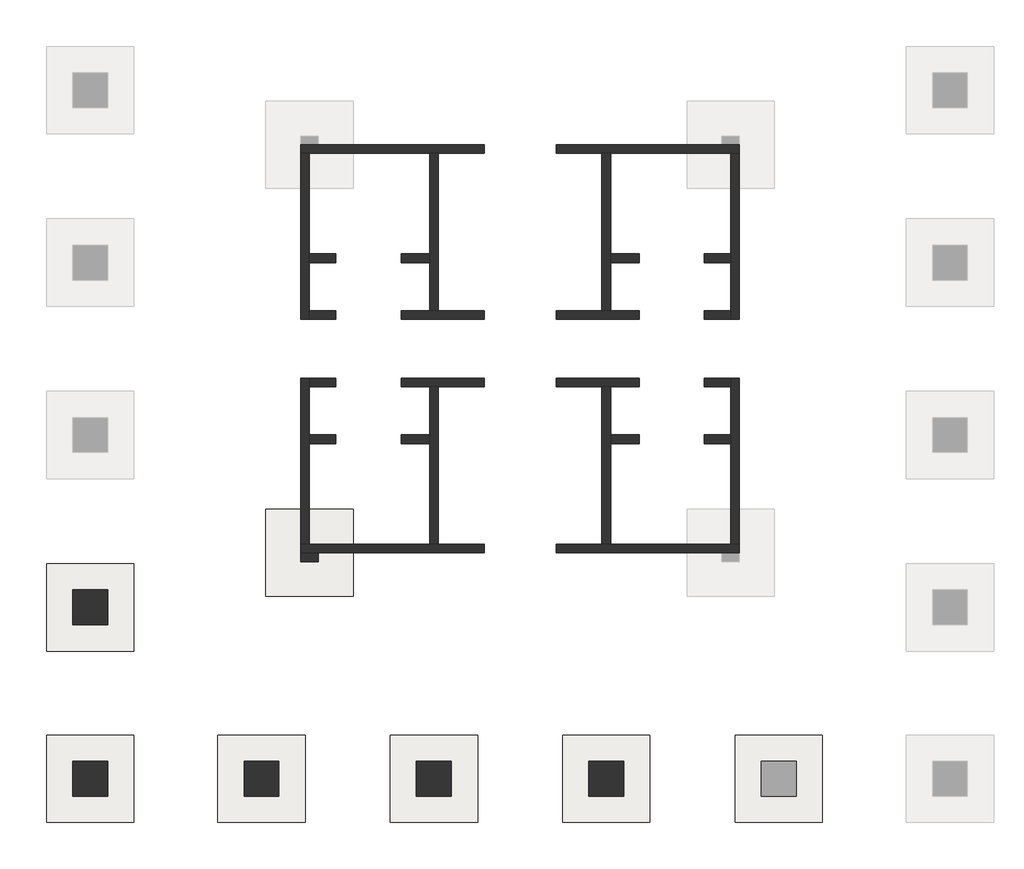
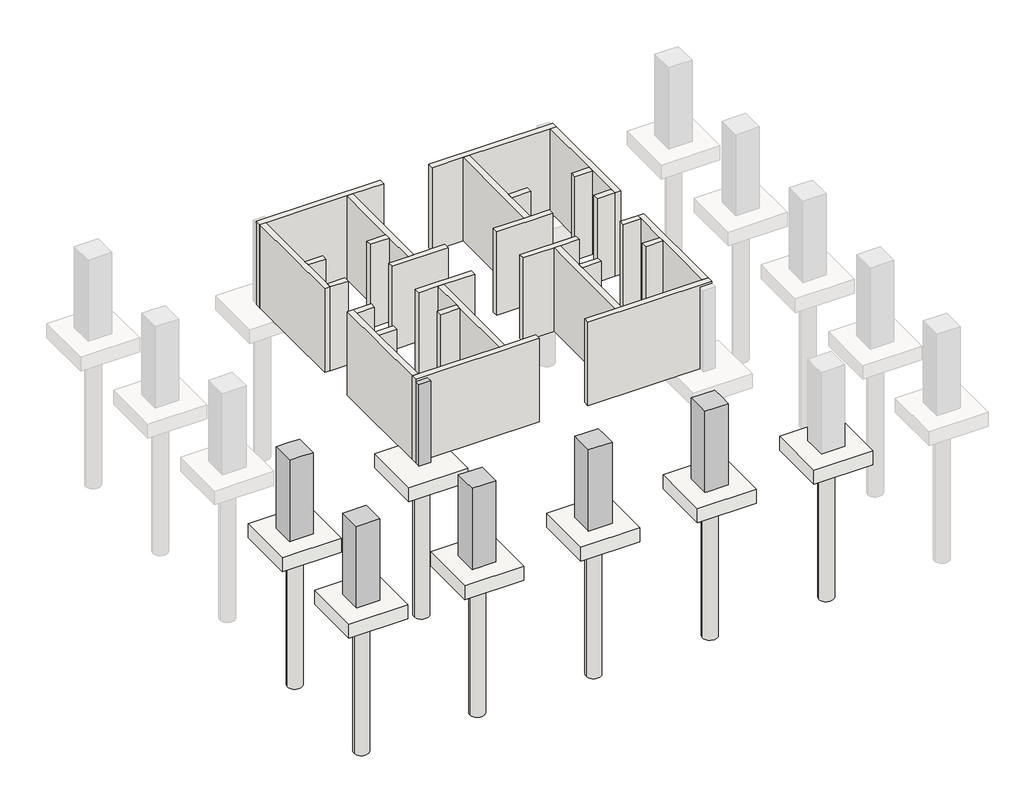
# One storey, part 1 of 2: 28 walls, 14 slabs, 6 columns.
"""IFC4 building model written with IfcOpenShell, lengths in millimetres."""

from ifc_helpers import new_model, si_unit, point, frame, frame_2d, origin, place, context, project, spatial, polyline, circle_curve, trimmed, segment, composite_curve, outline, extrude, faceted_brep, element, save

model = new_model("IFC4")

# Units and contexts
model_context = context("Model", 3, world=origin())
ifc_project = project(units=[si_unit("LENGTHUNIT", "METRE", prefix="MILLI")], contexts=[model_context])

# Site, building, storey
site = spatial("IfcSite", under=ifc_project)
building = spatial("IfcBuilding", under=site)
storey = spatial("IfcBuildingStorey", under=building, Name="基础顶面", Elevation=-2000.0)

# Columns
placement = place(None, origin())
element("IfcColumn", 1, ObjectType="混凝土 - 矩形 - 柱 : Z1-1600x1600", at=placement, inside=storey, context=model_context, shape_type="Brep", body=[
    faceted_brep([(-12472.6742169, -4498.9501342, -2000.0), (-12472.6742169, -6098.9501342, -2000.0), (-14072.6742169, -6098.9501342, -2000.0), (-14072.6742169, -4498.9501342, -2000.0), (-12472.6742169, -4498.9501342, 3840.0), (-12472.6742169, -6098.9501342, 3840.0), (-13272.6742169, -6098.9501342, 3840.0), (-14072.6742169, -6098.9501342, 3840.0), (-14072.6742169, -6098.9501342, 3000.0), (-14072.6742169, -4498.9501342, 3840.0), (-14072.6742169, -4498.9501342, 3000.0), (-13272.6742169, -4498.9501342, 3840.0)], [[[0, 1, 2, 3]], [[1, 0, 4, 5]], [[2, 1, 5, 6, 7, 8]], [[3, 2, 8, 7, 9, 10]], [[0, 3, 10, 9, 11, 4]], [[5, 4, 11, 9, 7, 6]]]),
])
element("IfcColumn", 2, ObjectType="混凝土 - 矩形 - 柱 : Z1-1600x1600", at=placement, inside=storey, context=model_context, shape_type="SweptSolid", body=[
    extrude(outline(polyline([(-12472.6742169, -12348.9501342), (-12472.6742169, -13948.9501342), (-14072.6742169, -13948.9501342), (-14072.6742169, -12348.9501342), (-12472.6742169, -12348.9501342)])), frame((0.0, 0.0, -2000.0), z_axis=(0.0, 0.0, 1.0), x_axis=(1.0, 0.0, 0.0)), (0.0, 0.0, 1.0), 5840.0),
])
element("IfcColumn", 3, ObjectType="混凝土 - 矩形 - 柱 : Z1-1600x1600", at=placement, inside=storey, context=model_context, shape_type="Brep", body=[
    faceted_brep([(-4622.6742169, -12348.9501342, -2000.0), (-4622.6742169, -13948.9501342, -2000.0), (-6222.6742169, -13948.9501342, -2000.0), (-6222.6742169, -12348.9501342, -2000.0), (-4622.6742169, -12348.9501342, 3840.0), (-4622.6742169, -13148.9501342, 3840.0), (-4622.6742169, -13948.9501342, 3840.0), (-4622.6742169, -13948.9501342, 3000.0), (-6222.6742169, -13948.9501342, 3840.0), (-6222.6742169, -13948.9501342, 3000.0), (-6222.6742169, -13148.9501342, 3840.0), (-6222.6742169, -12348.9501342, 3840.0)], [[[0, 1, 2, 3]], [[1, 0, 4, 5, 6, 7]], [[2, 1, 7, 6, 8, 9]], [[3, 2, 9, 8, 10, 11]], [[0, 3, 11, 4]], [[6, 5, 4, 11, 10, 8]]]),
])
element("IfcColumn", 4, ObjectType="混凝土 - 矩形 - 柱 : Z1-1600x1600", at=placement, inside=storey, context=model_context, shape_type="Brep", body=[
    faceted_brep([(3277.3257831, -12348.9501342, -2000.0), (3277.3257831, -13948.9501342, -2000.0), (1677.3257831, -13948.9501342, -2000.0), (1677.3257831, -12348.9501342, -2000.0), (3277.3257831, -12348.9501342, 3840.0), (3277.3257831, -13148.9501342, 3840.0), (3277.3257831, -13948.9501342, 3840.0), (3277.3257831, -13948.9501342, 3000.0), (1677.3257831, -13948.9501342, 3840.0), (1677.3257831, -13948.9501342, 3000.0), (1677.3257831, -13148.9501342, 3840.0), (1677.3257831, -12348.9501342, 3840.0)], [[[0, 1, 2, 3]], [[1, 0, 4, 5, 6, 7]], [[2, 1, 7, 6, 8, 9]], [[3, 2, 9, 8, 10, 11]], [[0, 3, 11, 4]], [[6, 5, 4, 11, 10, 8]]]),
])
element("IfcColumn", 5, ObjectType="混凝土 - 矩形 - 柱 : Z1-1600x1600", at=placement, inside=storey, context=model_context, shape_type="Brep", body=[
    faceted_brep([(11177.3257831, -12348.9501342, -2000.0), (11177.3257831, -13948.9501342, -2000.0), (9577.3257831, -13948.9501342, -2000.0), (9577.3257831, -12348.9501342, -2000.0), (11177.3257831, -12348.9501342, 3840.0), (11177.3257831, -13148.9501342, 3840.0), (11177.3257831, -13948.9501342, 3840.0), (11177.3257831, -13948.9501342, 3000.0), (9577.3257831, -13948.9501342, 3840.0), (9577.3257831, -13948.9501342, 3000.0), (9577.3257831, -13148.9501342, 3840.0), (9577.3257831, -12348.9501342, 3840.0)], [[[0, 1, 2, 3]], [[1, 0, 4, 5, 6, 7]], [[2, 1, 7, 6, 8, 9]], [[3, 2, 9, 8, 10, 11]], [[0, 3, 11, 4]], [[6, 5, 4, 11, 10, 8]]]),
])
element("IfcColumn", 6, ObjectType="混凝土 - 矩形 - 柱 : Z2-800x800", at=placement, inside=storey, context=model_context, shape_type="SweptSolid", body=[
    extrude(outline(polyline([(-2822.6742169, -3198.9501342), (-3622.6742169, -3198.9501342), (-3622.6742169, -2798.9501342), (-2822.6742169, -2798.9501342), (-2822.6742169, -3198.9501342)])), frame((0.0, 0.0, -2000.0), z_axis=(0.0, 0.0, 1.0), x_axis=(1.0, 0.0, 0.0)), (0.0, 0.0, 1.0), 5840.0),
])

# Slabs
element("IfcSlab", 7, ObjectType="独立基础 : 基础-4000x4000x1000", at=placement, inside=storey, context=model_context, shape_type="SweptSolid", body=[
    extrude(outline(polyline([(-11272.6742169, -3298.9501342), (-11272.6742169, -7298.9501342), (-15272.6742169, -7298.9501342), (-15272.6742169, -3298.9501342), (-11272.6742169, -3298.9501342)])), frame((0.0, 0.0, -3000.0), z_axis=(0.0, 0.0, 1.0), x_axis=(1.0, 0.0, 0.0)), (0.0, 0.0, 1.0), 1000.0),
])
element("IfcSlab", 8, ObjectType="独立基础 : 基础-4000x4000x1000", at=placement, inside=storey, context=model_context, shape_type="SweptSolid", body=[
    extrude(outline(polyline([(-11272.6742169, -11148.9501342), (-11272.6742169, -15148.9501342), (-15272.6742169, -15148.9501342), (-15272.6742169, -11148.9501342), (-11272.6742169, -11148.9501342)])), frame((0.0, 0.0, -3000.0), z_axis=(0.0, 0.0, 1.0), x_axis=(1.0, 0.0, 0.0)), (0.0, 0.0, 1.0), 1000.0),
])
element("IfcSlab", 9, ObjectType="独立基础 : 基础-4000x4000x1000", at=placement, inside=storey, context=model_context, shape_type="SweptSolid", body=[
    extrude(outline(polyline([(-3422.6742169, -11148.9501342), (-3422.6742169, -15148.9501342), (-7422.6742169, -15148.9501342), (-7422.6742169, -11148.9501342), (-3422.6742169, -11148.9501342)])), frame((0.0, 0.0, -3000.0), z_axis=(0.0, 0.0, 1.0), x_axis=(1.0, 0.0, 0.0)), (0.0, 0.0, 1.0), 1000.0),
])
element("IfcSlab", 10, ObjectType="独立基础 : 基础-4000x4000x1000", at=placement, inside=storey, context=model_context, shape_type="SweptSolid", body=[
    extrude(outline(polyline([(4477.3257831, -11148.9501342), (4477.3257831, -15148.9501342), (477.3257831, -15148.9501342), (477.3257831, -11148.9501342), (4477.3257831, -11148.9501342)])), frame((0.0, 0.0, -3000.0), z_axis=(0.0, 0.0, 1.0), x_axis=(1.0, 0.0, 0.0)), (0.0, 0.0, 1.0), 1000.0),
])
element("IfcSlab", 11, ObjectType="独立基础 : 基础-4000x4000x1000", at=placement, inside=storey, context=model_context, shape_type="SweptSolid", body=[
    extrude(outline(polyline([(12377.3257831, -11148.9501342), (12377.3257831, -15148.9501342), (8377.3257831, -15148.9501342), (8377.3257831, -11148.9501342), (12377.3257831, -11148.9501342)])), frame((0.0, 0.0, -3000.0), z_axis=(0.0, 0.0, 1.0), x_axis=(1.0, 0.0, 0.0)), (0.0, 0.0, 1.0), 1000.0),
])
element("IfcSlab", 12, ObjectType="独立基础 : 基础-4000x4000x1000", at=placement, inside=storey, context=model_context, shape_type="SweptSolid", body=[
    extrude(outline(polyline([(20277.3257831, -11148.9501342), (20277.3257831, -15148.9501342), (16277.3257831, -15148.9501342), (16277.3257831, -11148.9501342), (20277.3257831, -11148.9501342)])), frame((0.0, 0.0, -3000.0), z_axis=(0.0, 0.0, 1.0), x_axis=(1.0, 0.0, 0.0)), (0.0, 0.0, 1.0), 1000.0),
])
element("IfcSlab", 13, ObjectType="独立基础 : 基础-4000x4000x1000", at=placement, inside=storey, context=model_context, shape_type="SweptSolid", body=[
    extrude(outline(polyline([(-1222.6742169, -798.9501342), (-1222.6742169, -4798.9501342), (-5222.6742169, -4798.9501342), (-5222.6742169, -798.9501342), (-1222.6742169, -798.9501342)])), frame((0.0, 0.0, -3000.0), z_axis=(0.0, 0.0, 1.0), x_axis=(1.0, 0.0, 0.0)), (0.0, 0.0, 1.0), 1000.0),
])
element("IfcSlab", 14, ObjectType="桩 - 混凝土圆形桩 : 桩-1000mm", at=placement, inside=storey, context=model_context, shape_type="SweptSolid", body=[
    extrude(outline(composite_curve([segment(trimmed(circle_curve(frame_2d((-13272.6742169, -5298.9501342)), 500.0), [point((-13772.6742169, -5298.9501342))], [point((-12772.6742169, -5298.9501342))], False, "CARTESIAN"), True, "CONTINUOUS"), segment(trimmed(circle_curve(frame_2d((-13272.6742169, -5298.9501342)), 500.0), [point((-12772.6742169, -5298.9501342))], [point((-13772.6742169, -5298.9501342))], False, "CARTESIAN"), True, "CONTINUOUS")], self_intersect=False)), frame((0.0, 0.0, -13000.0), z_axis=(0.0, 0.0, 1.0), x_axis=(1.0, 0.0, 0.0)), (0.0, 0.0, 1.0), 10000.0),
])
element("IfcSlab", 15, ObjectType="桩 - 混凝土圆形桩 : 桩-1000mm", at=placement, inside=storey, context=model_context, shape_type="SweptSolid", body=[
    extrude(outline(composite_curve([segment(trimmed(circle_curve(frame_2d((-3222.6742169, -2798.9501342)), 500.0), [point((-3722.6742169, -2798.9501342))], [point((-2722.6742169, -2798.9501342))], False, "CARTESIAN"), True, "CONTINUOUS"), segment(trimmed(circle_curve(frame_2d((-3222.6742169, -2798.9501342)), 500.0), [point((-2722.6742169, -2798.9501342))], [point((-3722.6742169, -2798.9501342))], False, "CARTESIAN"), True, "CONTINUOUS")], self_intersect=False)), frame((0.0, 0.0, -13000.0), z_axis=(0.0, 0.0, 1.0), x_axis=(1.0, 0.0, 0.0)), (0.0, 0.0, 1.0), 10000.0),
])
element("IfcSlab", 16, ObjectType="桩 - 混凝土圆形桩 : 桩-1000mm", at=placement, inside=storey, context=model_context, shape_type="SweptSolid", body=[
    extrude(outline(composite_curve([segment(trimmed(circle_curve(frame_2d((-13272.6742169, -13148.9501342)), 500.0), [point((-13772.6742169, -13148.9501342))], [point((-12772.6742169, -13148.9501342))], False, "CARTESIAN"), True, "CONTINUOUS"), segment(trimmed(circle_curve(frame_2d((-13272.6742169, -13148.9501342)), 500.0), [point((-12772.6742169, -13148.9501342))], [point((-13772.6742169, -13148.9501342))], False, "CARTESIAN"), True, "CONTINUOUS")], self_intersect=False)), frame((0.0, 0.0, -13000.0), z_axis=(0.0, 0.0, 1.0), x_axis=(1.0, 0.0, 0.0)), (0.0, 0.0, 1.0), 10100.0),
])
element("IfcSlab", 17, ObjectType="桩 - 混凝土圆形桩 : 桩-1000mm", at=placement, inside=storey, context=model_context, shape_type="SweptSolid", body=[
    extrude(outline(composite_curve([segment(trimmed(circle_curve(frame_2d((-5422.6742169, -13148.9501342)), 500.0), [point((-4922.6742169, -13148.9501342))], [point((-5922.6742169, -13148.9501342))], False, "CARTESIAN"), True, "CONTINUOUS"), segment(trimmed(circle_curve(frame_2d((-5422.6742169, -13148.9501342)), 500.0), [point((-5922.6742169, -13148.9501342))], [point((-4922.6742169, -13148.9501342))], False, "CARTESIAN"), True, "CONTINUOUS")], self_intersect=False)), frame((0.0, 0.0, -13000.0), z_axis=(0.0, 0.0, 1.0), x_axis=(1.0, 0.0, 0.0)), (0.0, 0.0, 1.0), 10000.0),
])
element("IfcSlab", 18, ObjectType="桩 - 混凝土圆形桩 : 桩-1000mm", at=placement, inside=storey, context=model_context, shape_type="SweptSolid", body=[
    extrude(outline(composite_curve([segment(trimmed(circle_curve(frame_2d((2477.3257831, -13148.9501342)), 500.0), [point((2977.3257831, -13148.9501342))], [point((1977.3257831, -13148.9501342))], False, "CARTESIAN"), True, "CONTINUOUS"), segment(trimmed(circle_curve(frame_2d((2477.3257831, -13148.9501342)), 500.0), [point((1977.3257831, -13148.9501342))], [point((2977.3257831, -13148.9501342))], False, "CARTESIAN"), True, "CONTINUOUS")], self_intersect=False)), frame((0.0, 0.0, -13000.0), z_axis=(0.0, 0.0, 1.0), x_axis=(1.0, 0.0, 0.0)), (0.0, 0.0, 1.0), 10000.0),
])
element("IfcSlab", 19, ObjectType="桩 - 混凝土圆形桩 : 桩-1000mm", at=placement, inside=storey, context=model_context, shape_type="SweptSolid", body=[
    extrude(outline(composite_curve([segment(trimmed(circle_curve(frame_2d((10377.3257831, -13148.9501342)), 500.0), [point((10877.3257831, -13148.9501342))], [point((9877.3257831, -13148.9501342))], False, "CARTESIAN"), True, "CONTINUOUS"), segment(trimmed(circle_curve(frame_2d((10377.3257831, -13148.9501342)), 500.0), [point((9877.3257831, -13148.9501342))], [point((10877.3257831, -13148.9501342))], False, "CARTESIAN"), True, "CONTINUOUS")], self_intersect=False)), frame((0.0, 0.0, -13000.0), z_axis=(0.0, 0.0, 1.0), x_axis=(1.0, 0.0, 0.0)), (0.0, 0.0, 1.0), 10000.0),
])
element("IfcSlab", 20, ObjectType="桩 - 混凝土圆形桩 : 桩-1000mm", at=placement, inside=storey, context=model_context, shape_type="SweptSolid", body=[
    extrude(outline(composite_curve([segment(trimmed(circle_curve(frame_2d((18277.3257831, -13148.9501342)), 500.0), [point((18777.3257831, -13148.9501342))], [point((17777.3257831, -13148.9501342))], False, "CARTESIAN"), True, "CONTINUOUS"), segment(trimmed(circle_curve(frame_2d((18277.3257831, -13148.9501342)), 500.0), [point((17777.3257831, -13148.9501342))], [point((18777.3257831, -13148.9501342))], False, "CARTESIAN"), True, "CONTINUOUS")], self_intersect=False)), frame((0.0, 0.0, -13000.0), z_axis=(0.0, 0.0, 1.0), x_axis=(1.0, 0.0, 0.0)), (0.0, 0.0, 1.0), 10000.0),
])

# Walls
element("IfcWall", 21, ObjectType="剪力墙-400", at=placement, inside=storey, context=model_context, shape_type="Brep", body=[
    faceted_brep([(-3622.6742169, 15501.0498658, -2000.0), (-3222.6742169, 15501.0498658, -2000.0), (2277.3257831, 15501.0498658, -2000.0), (2677.3257831, 15501.0498658, -2000.0), (4777.3257831, 15501.0498658, -2000.0), (4777.3257831, 15501.0498658, 4000.0), (2677.3257831, 15501.0498658, 4000.0), (2277.3257831, 15501.0498658, 4000.0), (-3222.6742169, 15501.0498658, 4000.0), (-3622.6742169, 15501.0498658, 4000.0), (-3622.6742169, 15901.0498658, -2000.0), (-3622.6742169, 15901.0498658, 3840.0), (-3622.6742169, 15901.0498658, 4000.0), (4777.3257831, 15901.0498658, 4000.0), (4777.3257831, 15901.0498658, -2000.0), (-2822.6742169, 15901.0498658, -2000.0)], [[[0, 1, 2, 3, 4, 5, 6, 7, 8, 9]], [[10, 11, 12, 13, 14, 15]], [[4, 3, 2, 1, 0, 10, 15, 14]], [[5, 4, 14, 13]], [[9, 8, 7, 6, 5, 13, 12]], [[0, 9, 12, 11, 10]]]),
])
element("IfcWall", 22, ObjectType="剪力墙-400", at=placement, inside=storey, context=model_context, shape_type="Brep", body=[
    faceted_brep([(2277.3257831, 15501.0498658, -2000.0), (2277.3257831, 10901.0498658, -2000.0), (2277.3257831, 10501.0498658, -2000.0), (2277.3257831, 8301.0498658, -2000.0), (2277.3257831, 8301.0498658, 4000.0), (2277.3257831, 10501.0498658, 4000.0), (2277.3257831, 10901.0498658, 4000.0), (2277.3257831, 15501.0498658, 4000.0), (2677.3257831, 15501.0498658, -2000.0), (2677.3257831, 15501.0498658, 4000.0), (2677.3257831, 8301.0498658, 4000.0), (2677.3257831, 8301.0498658, -2000.0)], [[[0, 1, 2, 3, 4, 5, 6, 7]], [[8, 9, 10, 11]], [[3, 2, 1, 0, 8, 11]], [[7, 6, 5, 4, 10, 9]], [[0, 7, 9, 8]], [[4, 3, 11, 10]]]),
])
element("IfcWall", 23, ObjectType="剪力墙-400", at=placement, inside=storey, context=model_context, shape_type="Brep", body=[
    faceted_brep([(-3622.6742169, 15501.0498658, -2000.0), (-3622.6742169, 7901.0498658, -2000.0), (-3622.6742169, 7901.0498658, 4000.0), (-3622.6742169, 15501.0498658, 4000.0), (-3222.6742169, 15501.0498658, -2000.0), (-3222.6742169, 15501.0498658, 4000.0), (-3222.6742169, 10901.0498658, 4000.0), (-3222.6742169, 10501.0498658, 4000.0), (-3222.6742169, 8301.0498658, 4000.0), (-3222.6742169, 7901.0498658, 4000.0), (-3222.6742169, 7901.0498658, -2000.0), (-3222.6742169, 8301.0498658, -2000.0), (-3222.6742169, 10501.0498658, -2000.0), (-3222.6742169, 10901.0498658, -2000.0)], [[[0, 1, 2, 3]], [[4, 5, 6, 7, 8, 9, 10, 11, 12, 13]], [[1, 0, 4, 13, 12, 11, 10]], [[3, 2, 9, 8, 7, 6, 5]], [[0, 3, 5, 4]], [[2, 1, 10, 9]]]),
])
element("IfcWall", 24, ObjectType="剪力墙-400", at=placement, inside=storey, context=model_context, shape_type="SweptSolid", body=[
    extrude(outline(polyline([(-2022.6742169, 7901.0498658), (-3222.6742169, 7901.0498658), (-3222.6742169, 8301.0498658), (-2022.6742169, 8301.0498658), (-2022.6742169, 7901.0498658)])), frame((0.0, 0.0, -2000.0), z_axis=(0.0, 0.0, 1.0), x_axis=(1.0, 0.0, 0.0)), (0.0, 0.0, 1.0), 6000.0),
])
element("IfcWall", 25, ObjectType="剪力墙-400", at=placement, inside=storey, context=model_context, shape_type="Brep", body=[
    faceted_brep([(977.3257831, 7901.0498658, -2000.0), (4777.3257831, 7901.0498658, -2000.0), (4777.3257831, 7901.0498658, 4000.0), (977.3257831, 7901.0498658, 4000.0), (977.3257831, 8301.0498658, -2000.0), (977.3257831, 8301.0498658, 4000.0), (2277.3257831, 8301.0498658, 4000.0), (2677.3257831, 8301.0498658, 4000.0), (4777.3257831, 8301.0498658, 4000.0), (4777.3257831, 8301.0498658, -2000.0), (2677.3257831, 8301.0498658, -2000.0), (2277.3257831, 8301.0498658, -2000.0)], [[[0, 1, 2, 3]], [[4, 5, 6, 7, 8, 9, 10, 11]], [[1, 0, 4, 11, 10, 9]], [[2, 1, 9, 8]], [[3, 2, 8, 7, 6, 5]], [[0, 3, 5, 4]]]),
])
element("IfcWall", 26, ObjectType="剪力墙-400", at=placement, inside=storey, context=model_context, shape_type="SweptSolid", body=[
    extrude(outline(polyline([(-2022.6742169, 10501.0498658), (-3222.6742169, 10501.0498658), (-3222.6742169, 10901.0498658), (-2022.6742169, 10901.0498658), (-2022.6742169, 10501.0498658)])), frame((0.0, 0.0, -2000.0), z_axis=(0.0, 0.0, 1.0), x_axis=(1.0, 0.0, 0.0)), (0.0, 0.0, 1.0), 6000.0),
])
element("IfcWall", 27, ObjectType="剪力墙-400", at=placement, inside=storey, context=model_context, shape_type="SweptSolid", body=[
    extrude(outline(polyline([(2277.3257831, 10501.0498658), (977.3257831, 10501.0498658), (977.3257831, 10901.0498658), (2277.3257831, 10901.0498658), (2277.3257831, 10501.0498658)])), frame((0.0, 0.0, -2000.0), z_axis=(0.0, 0.0, 1.0), x_axis=(1.0, 0.0, 0.0)), (0.0, 0.0, 1.0), 6000.0),
])
element("IfcWall", 28, ObjectType="剪力墙-400", at=placement, inside=storey, context=model_context, shape_type="Brep", body=[
    faceted_brep([(16477.3257831, 15901.0498658, -2000.0), (15677.3257831, 15901.0498658, -2000.0), (8077.3257831, 15901.0498658, -2000.0), (8077.3257831, 15901.0498658, 4000.0), (16477.3257831, 15901.0498658, 4000.0), (16477.3257831, 15901.0498658, 3840.0), (16477.3257831, 15501.0498658, -2000.0), (16477.3257831, 15501.0498658, 4000.0), (16077.3257831, 15501.0498658, 4000.0), (10577.3257831, 15501.0498658, 4000.0), (10177.3257831, 15501.0498658, 4000.0), (8077.3257831, 15501.0498658, 4000.0), (8077.3257831, 15501.0498658, -2000.0), (10177.3257831, 15501.0498658, -2000.0), (10577.3257831, 15501.0498658, -2000.0), (16077.3257831, 15501.0498658, -2000.0)], [[[0, 1, 2, 3, 4, 5]], [[6, 7, 8, 9, 10, 11, 12, 13, 14, 15]], [[2, 1, 0, 6, 15, 14, 13, 12]], [[3, 2, 12, 11]], [[4, 3, 11, 10, 9, 8, 7]], [[0, 5, 4, 7, 6]]]),
])
element("IfcWall", 29, ObjectType="剪力墙-400", at=placement, inside=storey, context=model_context, shape_type="Brep", body=[
    faceted_brep([(10177.3257831, 15501.0498658, -2000.0), (10177.3257831, 8301.0498658, -2000.0), (10177.3257831, 8301.0498658, 4000.0), (10177.3257831, 15501.0498658, 4000.0), (10577.3257831, 15501.0498658, -2000.0), (10577.3257831, 15501.0498658, 4000.0), (10577.3257831, 10901.0498658, 4000.0), (10577.3257831, 10501.0498658, 4000.0), (10577.3257831, 8301.0498658, 4000.0), (10577.3257831, 8301.0498658, -2000.0), (10577.3257831, 10501.0498658, -2000.0), (10577.3257831, 10901.0498658, -2000.0)], [[[0, 1, 2, 3]], [[4, 5, 6, 7, 8, 9, 10, 11]], [[1, 0, 4, 11, 10, 9]], [[3, 2, 8, 7, 6, 5]], [[0, 3, 5, 4]], [[2, 1, 9, 8]]]),
])
element("IfcWall", 30, ObjectType="剪力墙-400", at=placement, inside=storey, context=model_context, shape_type="Brep", body=[
    faceted_brep([(16077.3257831, 15501.0498658, -2000.0), (16077.3257831, 10901.0498658, -2000.0), (16077.3257831, 10501.0498658, -2000.0), (16077.3257831, 8301.0498658, -2000.0), (16077.3257831, 7901.0498658, -2000.0), (16077.3257831, 7901.0498658, 4000.0), (16077.3257831, 8301.0498658, 4000.0), (16077.3257831, 10501.0498658, 4000.0), (16077.3257831, 10901.0498658, 4000.0), (16077.3257831, 15501.0498658, 4000.0), (16477.3257831, 15501.0498658, -2000.0), (16477.3257831, 15501.0498658, 4000.0), (16477.3257831, 7901.0498658, 4000.0), (16477.3257831, 7901.0498658, -2000.0)], [[[0, 1, 2, 3, 4, 5, 6, 7, 8, 9]], [[10, 11, 12, 13]], [[4, 3, 2, 1, 0, 10, 13]], [[9, 8, 7, 6, 5, 12, 11]], [[0, 9, 11, 10]], [[5, 4, 13, 12]]]),
])
element("IfcWall", 31, ObjectType="剪力墙-400", at=placement, inside=storey, context=model_context, shape_type="SweptSolid", body=[
    extrude(outline(polyline([(14877.3257831, 8301.0498658), (16077.3257831, 8301.0498658), (16077.3257831, 7901.0498658), (14877.3257831, 7901.0498658), (14877.3257831, 8301.0498658)])), frame((0.0, 0.0, -2000.0), z_axis=(0.0, 0.0, 1.0), x_axis=(1.0, 0.0, 0.0)), (0.0, 0.0, 1.0), 6000.0),
])
element("IfcWall", 32, ObjectType="剪力墙-400", at=placement, inside=storey, context=model_context, shape_type="Brep", body=[
    faceted_brep([(11877.3257831, 8301.0498658, -2000.0), (10577.3257831, 8301.0498658, -2000.0), (10177.3257831, 8301.0498658, -2000.0), (8077.3257831, 8301.0498658, -2000.0), (8077.3257831, 8301.0498658, 4000.0), (10177.3257831, 8301.0498658, 4000.0), (10577.3257831, 8301.0498658, 4000.0), (11877.3257831, 8301.0498658, 4000.0), (11877.3257831, 7901.0498658, -2000.0), (11877.3257831, 7901.0498658, 4000.0), (8077.3257831, 7901.0498658, 4000.0), (8077.3257831, 7901.0498658, -2000.0)], [[[0, 1, 2, 3, 4, 5, 6, 7]], [[8, 9, 10, 11]], [[3, 2, 1, 0, 8, 11]], [[4, 3, 11, 10]], [[7, 6, 5, 4, 10, 9]], [[0, 7, 9, 8]]]),
])
element("IfcWall", 33, ObjectType="剪力墙-400", at=placement, inside=storey, context=model_context, shape_type="SweptSolid", body=[
    extrude(outline(polyline([(14877.3257831, 10901.0498658), (16077.3257831, 10901.0498658), (16077.3257831, 10501.0498658), (14877.3257831, 10501.0498658), (14877.3257831, 10901.0498658)])), frame((0.0, 0.0, -2000.0), z_axis=(0.0, 0.0, 1.0), x_axis=(1.0, 0.0, 0.0)), (0.0, 0.0, 1.0), 6000.0),
])
element("IfcWall", 34, ObjectType="剪力墙-400", at=placement, inside=storey, context=model_context, shape_type="SweptSolid", body=[
    extrude(outline(polyline([(10577.3257831, 10901.0498658), (11877.3257831, 10901.0498658), (11877.3257831, 10501.0498658), (10577.3257831, 10501.0498658), (10577.3257831, 10901.0498658)])), frame((0.0, 0.0, -2000.0), z_axis=(0.0, 0.0, 1.0), x_axis=(1.0, 0.0, 0.0)), (0.0, 0.0, 1.0), 6000.0),
])
element("IfcWall", 35, ObjectType="剪力墙-400", at=placement, inside=storey, context=model_context, shape_type="Brep", body=[
    faceted_brep([(-3622.6742169, -2798.9501342, -2000.0), (-2822.6742169, -2798.9501342, -2000.0), (4777.3257831, -2798.9501342, -2000.0), (4777.3257831, -2798.9501342, 4000.0), (-3622.6742169, -2798.9501342, 4000.0), (-3622.6742169, -2798.9501342, 3840.0), (-3622.6742169, -2398.9501342, -2000.0), (-3622.6742169, -2398.9501342, 4000.0), (-3222.6742169, -2398.9501342, 4000.0), (2277.3257831, -2398.9501342, 4000.0), (2677.3257831, -2398.9501342, 4000.0), (4777.3257831, -2398.9501342, 4000.0), (4777.3257831, -2398.9501342, -2000.0), (2677.3257831, -2398.9501342, -2000.0), (2277.3257831, -2398.9501342, -2000.0), (-3222.6742169, -2398.9501342, -2000.0)], [[[0, 1, 2, 3, 4, 5]], [[6, 7, 8, 9, 10, 11, 12, 13, 14, 15]], [[2, 1, 0, 6, 15, 14, 13, 12]], [[3, 2, 12, 11]], [[4, 3, 11, 10, 9, 8, 7]], [[0, 5, 4, 7, 6]]]),
])
element("IfcWall", 36, ObjectType="剪力墙-400", at=placement, inside=storey, context=model_context, shape_type="Brep", body=[
    faceted_brep([(2677.3257831, -2398.9501342, -2000.0), (2677.3257831, 4801.0498658, -2000.0), (2677.3257831, 4801.0498658, 4000.0), (2677.3257831, -2398.9501342, 4000.0), (2277.3257831, -2398.9501342, -2000.0), (2277.3257831, -2398.9501342, 4000.0), (2277.3257831, 2201.0498658, 4000.0), (2277.3257831, 2601.0498658, 4000.0), (2277.3257831, 4801.0498658, 4000.0), (2277.3257831, 4801.0498658, -2000.0), (2277.3257831, 2601.0498658, -2000.0), (2277.3257831, 2201.0498658, -2000.0)], [[[0, 1, 2, 3]], [[4, 5, 6, 7, 8, 9, 10, 11]], [[1, 0, 4, 11, 10, 9]], [[3, 2, 8, 7, 6, 5]], [[0, 3, 5, 4]], [[2, 1, 9, 8]]]),
])
element("IfcWall", 37, ObjectType="剪力墙-400", at=placement, inside=storey, context=model_context, shape_type="Brep", body=[
    faceted_brep([(-3222.6742169, -2398.9501342, -2000.0), (-3222.6742169, 2201.0498658, -2000.0), (-3222.6742169, 2601.0498658, -2000.0), (-3222.6742169, 4801.0498658, -2000.0), (-3222.6742169, 5201.0498658, -2000.0), (-3222.6742169, 5201.0498658, 4000.0), (-3222.6742169, 4801.0498658, 4000.0), (-3222.6742169, 2601.0498658, 4000.0), (-3222.6742169, 2201.0498658, 4000.0), (-3222.6742169, -2398.9501342, 4000.0), (-3622.6742169, -2398.9501342, -2000.0), (-3622.6742169, -2398.9501342, 4000.0), (-3622.6742169, 5201.0498658, 4000.0), (-3622.6742169, 5201.0498658, -2000.0)], [[[0, 1, 2, 3, 4, 5, 6, 7, 8, 9]], [[10, 11, 12, 13]], [[4, 3, 2, 1, 0, 10, 13]], [[9, 8, 7, 6, 5, 12, 11]], [[0, 9, 11, 10]], [[5, 4, 13, 12]]]),
])
element("IfcWall", 38, ObjectType="剪力墙-400", at=placement, inside=storey, context=model_context, shape_type="SweptSolid", body=[
    extrude(outline(polyline([(-2022.6742169, 4801.0498658), (-3222.6742169, 4801.0498658), (-3222.6742169, 5201.0498658), (-2022.6742169, 5201.0498658), (-2022.6742169, 4801.0498658)])), frame((0.0, 0.0, -2000.0), z_axis=(0.0, 0.0, 1.0), x_axis=(1.0, 0.0, 0.0)), (0.0, 0.0, 1.0), 6000.0),
])
element("IfcWall", 39, ObjectType="剪力墙-400", at=placement, inside=storey, context=model_context, shape_type="Brep", body=[
    faceted_brep([(977.3257831, 4801.0498658, -2000.0), (2277.3257831, 4801.0498658, -2000.0), (2677.3257831, 4801.0498658, -2000.0), (4777.3257831, 4801.0498658, -2000.0), (4777.3257831, 4801.0498658, 4000.0), (2677.3257831, 4801.0498658, 4000.0), (2277.3257831, 4801.0498658, 4000.0), (977.3257831, 4801.0498658, 4000.0), (977.3257831, 5201.0498658, -2000.0), (977.3257831, 5201.0498658, 4000.0), (4777.3257831, 5201.0498658, 4000.0), (4777.3257831, 5201.0498658, -2000.0)], [[[0, 1, 2, 3, 4, 5, 6, 7]], [[8, 9, 10, 11]], [[3, 2, 1, 0, 8, 11]], [[4, 3, 11, 10]], [[7, 6, 5, 4, 10, 9]], [[0, 7, 9, 8]]]),
])
element("IfcWall", 40, ObjectType="剪力墙-400", at=placement, inside=storey, context=model_context, shape_type="SweptSolid", body=[
    extrude(outline(polyline([(-2022.6742169, 2201.0498658), (-3222.6742169, 2201.0498658), (-3222.6742169, 2601.0498658), (-2022.6742169, 2601.0498658), (-2022.6742169, 2201.0498658)])), frame((0.0, 0.0, -2000.0), z_axis=(0.0, 0.0, 1.0), x_axis=(1.0, 0.0, 0.0)), (0.0, 0.0, 1.0), 6000.0),
])
element("IfcWall", 41, ObjectType="剪力墙-400", at=placement, inside=storey, context=model_context, shape_type="SweptSolid", body=[
    extrude(outline(polyline([(2277.3257831, 2201.0498658), (977.3257831, 2201.0498658), (977.3257831, 2601.0498658), (2277.3257831, 2601.0498658), (2277.3257831, 2201.0498658)])), frame((0.0, 0.0, -2000.0), z_axis=(0.0, 0.0, 1.0), x_axis=(1.0, 0.0, 0.0)), (0.0, 0.0, 1.0), 6000.0),
])
element("IfcWall", 42, ObjectType="剪力墙-400", at=placement, inside=storey, context=model_context, shape_type="Brep", body=[
    faceted_brep([(16477.3257831, -2398.9501342, -2000.0), (16077.3257831, -2398.9501342, -2000.0), (10577.3257831, -2398.9501342, -2000.0), (10177.3257831, -2398.9501342, -2000.0), (8077.3257831, -2398.9501342, -2000.0), (8077.3257831, -2398.9501342, 4000.0), (10177.3257831, -2398.9501342, 4000.0), (10577.3257831, -2398.9501342, 4000.0), (16077.3257831, -2398.9501342, 4000.0), (16477.3257831, -2398.9501342, 4000.0), (16477.3257831, -2798.9501342, -2000.0), (16477.3257831, -2798.9501342, 3840.0), (16477.3257831, -2798.9501342, 4000.0), (8077.3257831, -2798.9501342, 4000.0), (8077.3257831, -2798.9501342, -2000.0), (15677.3257831, -2798.9501342, -2000.0)], [[[0, 1, 2, 3, 4, 5, 6, 7, 8, 9]], [[10, 11, 12, 13, 14, 15]], [[4, 3, 2, 1, 0, 10, 15, 14]], [[5, 4, 14, 13]], [[9, 8, 7, 6, 5, 13, 12]], [[0, 9, 12, 11, 10]]]),
])
element("IfcWall", 43, ObjectType="剪力墙-400", at=placement, inside=storey, context=model_context, shape_type="Brep", body=[
    faceted_brep([(10577.3257831, -2398.9501342, -2000.0), (10577.3257831, 2201.0498658, -2000.0), (10577.3257831, 2601.0498658, -2000.0), (10577.3257831, 4801.0498658, -2000.0), (10577.3257831, 4801.0498658, 4000.0), (10577.3257831, 2601.0498658, 4000.0), (10577.3257831, 2201.0498658, 4000.0), (10577.3257831, -2398.9501342, 4000.0), (10177.3257831, -2398.9501342, -2000.0), (10177.3257831, -2398.9501342, 4000.0), (10177.3257831, 4801.0498658, 4000.0), (10177.3257831, 4801.0498658, -2000.0)], [[[0, 1, 2, 3, 4, 5, 6, 7]], [[8, 9, 10, 11]], [[3, 2, 1, 0, 8, 11]], [[7, 6, 5, 4, 10, 9]], [[0, 7, 9, 8]], [[4, 3, 11, 10]]]),
])
element("IfcWall", 44, ObjectType="剪力墙-400", at=placement, inside=storey, context=model_context, shape_type="Brep", body=[
    faceted_brep([(16477.3257831, -2398.9501342, -2000.0), (16477.3257831, 5201.0498658, -2000.0), (16477.3257831, 5201.0498658, 4000.0), (16477.3257831, -2398.9501342, 4000.0), (16077.3257831, -2398.9501342, -2000.0), (16077.3257831, -2398.9501342, 4000.0), (16077.3257831, 2201.0498658, 4000.0), (16077.3257831, 2601.0498658, 4000.0), (16077.3257831, 4801.0498658, 4000.0), (16077.3257831, 5201.0498658, 4000.0), (16077.3257831, 5201.0498658, -2000.0), (16077.3257831, 4801.0498658, -2000.0), (16077.3257831, 2601.0498658, -2000.0), (16077.3257831, 2201.0498658, -2000.0)], [[[0, 1, 2, 3]], [[4, 5, 6, 7, 8, 9, 10, 11, 12, 13]], [[1, 0, 4, 13, 12, 11, 10]], [[3, 2, 9, 8, 7, 6, 5]], [[0, 3, 5, 4]], [[2, 1, 10, 9]]]),
])
element("IfcWall", 45, ObjectType="剪力墙-400", at=placement, inside=storey, context=model_context, shape_type="SweptSolid", body=[
    extrude(outline(polyline([(14877.3257831, 5201.0498658), (16077.3257831, 5201.0498658), (16077.3257831, 4801.0498658), (14877.3257831, 4801.0498658), (14877.3257831, 5201.0498658)])), frame((0.0, 0.0, -2000.0), z_axis=(0.0, 0.0, 1.0), x_axis=(1.0, 0.0, 0.0)), (0.0, 0.0, 1.0), 6000.0),
])
element("IfcWall", 46, ObjectType="剪力墙-400", at=placement, inside=storey, context=model_context, shape_type="Brep", body=[
    faceted_brep([(11877.3257831, 5201.0498658, -2000.0), (8077.3257831, 5201.0498658, -2000.0), (8077.3257831, 5201.0498658, 4000.0), (11877.3257831, 5201.0498658, 4000.0), (11877.3257831, 4801.0498658, -2000.0), (11877.3257831, 4801.0498658, 4000.0), (10577.3257831, 4801.0498658, 4000.0), (10177.3257831, 4801.0498658, 4000.0), (8077.3257831, 4801.0498658, 4000.0), (8077.3257831, 4801.0498658, -2000.0), (10177.3257831, 4801.0498658, -2000.0), (10577.3257831, 4801.0498658, -2000.0)], [[[0, 1, 2, 3]], [[4, 5, 6, 7, 8, 9, 10, 11]], [[1, 0, 4, 11, 10, 9]], [[2, 1, 9, 8]], [[3, 2, 8, 7, 6, 5]], [[0, 3, 5, 4]]]),
])
element("IfcWall", 47, ObjectType="剪力墙-400", at=placement, inside=storey, context=model_context, shape_type="SweptSolid", body=[
    extrude(outline(polyline([(14877.3257831, 2601.0498658), (16077.3257831, 2601.0498658), (16077.3257831, 2201.0498658), (14877.3257831, 2201.0498658), (14877.3257831, 2601.0498658)])), frame((0.0, 0.0, -2000.0), z_axis=(0.0, 0.0, 1.0), x_axis=(1.0, 0.0, 0.0)), (0.0, 0.0, 1.0), 6000.0),
])
element("IfcWall", 48, ObjectType="剪力墙-400", at=placement, inside=storey, context=model_context, shape_type="SweptSolid", body=[
    extrude(outline(polyline([(10577.3257831, 2601.0498658), (11877.3257831, 2601.0498658), (11877.3257831, 2201.0498658), (10577.3257831, 2201.0498658), (10577.3257831, 2601.0498658)])), frame((0.0, 0.0, -2000.0), z_axis=(0.0, 0.0, 1.0), x_axis=(1.0, 0.0, 0.0)), (0.0, 0.0, 1.0), 6000.0),
])

save(model, "model.ifc")
